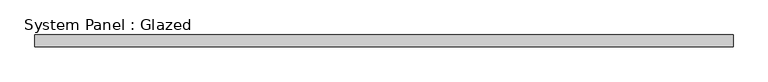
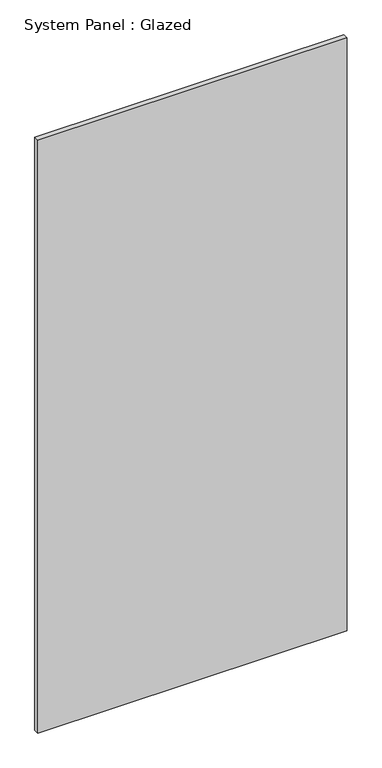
"""IFC4 building model written with IfcOpenShell, lengths in millimetres: plate geometry, System Panel : Glazed."""

from ifc_helpers import new_model, si_unit, origin, origin_with_axes, place, context, project, spatial, polyline, outline, extrude, source, transform, mapped, element, save


def system_panel_glazed_9b7d687a(model_context):
    return source(origin(), model_context, "Body", "SweptSolid", [
        extrude(outline(polyline([(742.95, -44.45), (-742.95, -44.45), (-742.95, -19.05), (742.95, -19.05), (742.95, -44.45)])), origin_with_axes(), (0.0, 0.0, 1.0), 3009.9),
    ])


if __name__ == "__main__":
    model = new_model("IFC4")
    model_context = context("Model", 3, world=origin())
    ifc_project = project(units=[si_unit("LENGTHUNIT", "METRE", prefix="MILLI")], contexts=[model_context])
    site = spatial("IfcSite", under=ifc_project)
    building = spatial("IfcBuilding", under=site)
    placement = place(None, origin())
    system_panel_glazed_shape = system_panel_glazed_9b7d687a(model_context)
    element("IfcPlate", 1, ObjectType="System Panel : Glazed", at=placement, inside=building, context=model_context, shape_type="MappedRepresentation", body=[
        mapped(system_panel_glazed_shape, transform((0.0, 0.0, 0.0), x_axis=(1.0, 0.0, 0.0), y_axis=(0.0, 1.0, 0.0), z_axis=(0.0, 0.0, 1.0))),
    ])
    save(model, "model.ifc")
